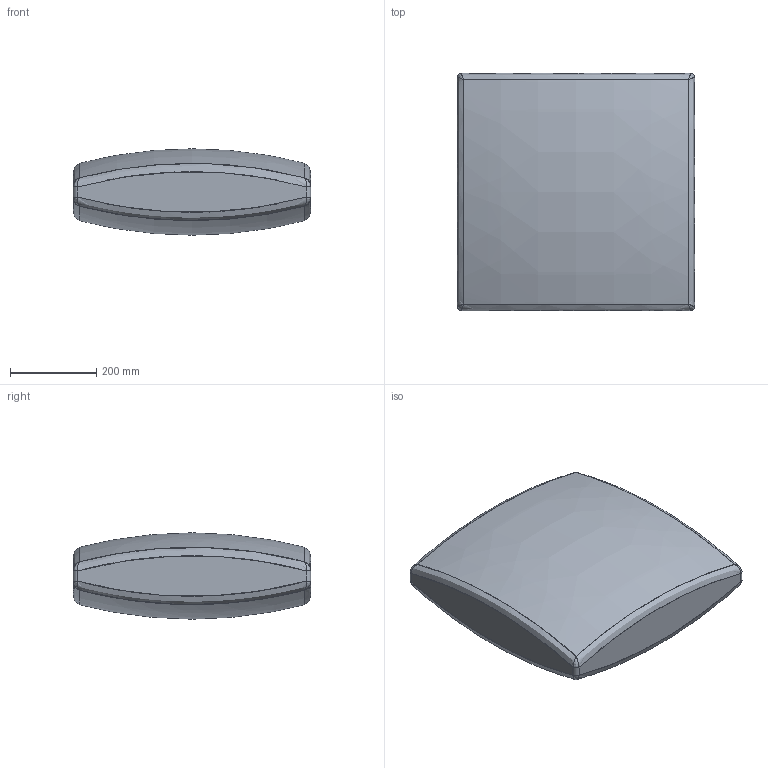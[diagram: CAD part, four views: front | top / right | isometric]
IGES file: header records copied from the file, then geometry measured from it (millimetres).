
Start section: SolidWorks IGES file using analytic representation for surfaces
Global section: file name: C:\Users\furioso\Desktop\ACC99002-00-00.IGS; native system: SolidWorks 2020; preprocessor: SolidWorks 2020; author: Furioso; date: 240916.093836; units: millimetre
Bounding box: 550 x 550 x 200 mm (x, y, z)
Surface area: 818966.8 mm2 (no closed solid volume)
Topology: 0 solids, 0 shells, 34 faces, 428 edges, 426 vertices
Faces by surface type: bspline 30, revolution 4
